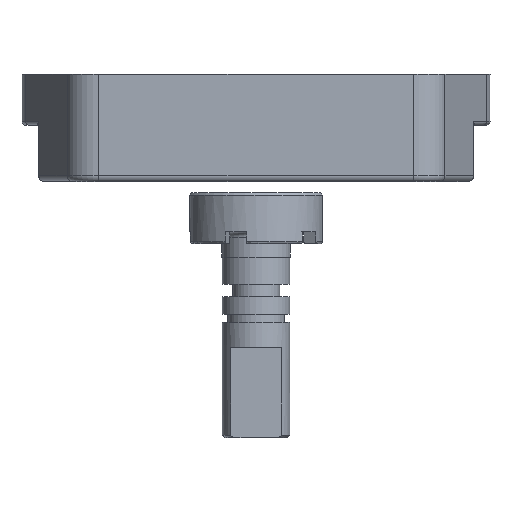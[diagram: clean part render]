
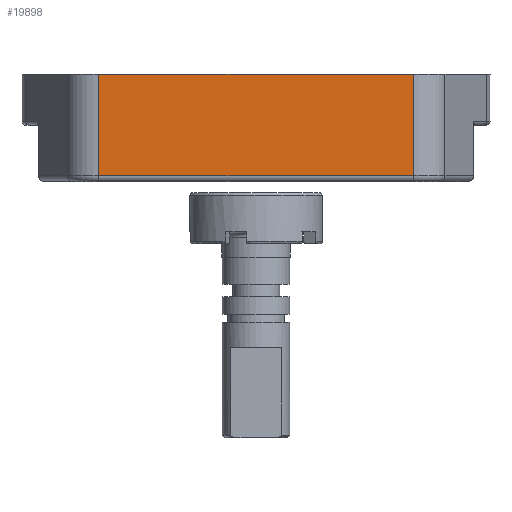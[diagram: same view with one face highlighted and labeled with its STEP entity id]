
A CAD part, front view. The second image highlights one B-rep face of the part: STEP entity #19898.
In plain terms, the highlighted planar face has unit normal (0, -1, 0).
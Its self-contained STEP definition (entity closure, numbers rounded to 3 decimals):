
#1111 = VECTOR ( 'NONE', #21350, 1000. ) ;
#1335 = EDGE_LOOP ( 'NONE', ( #13000, #3121, #3691, #19869 ) ) ;
#1554 = EDGE_CURVE ( 'NONE', #23985, #22761, #19725, .T. ) ;
#1808 = CARTESIAN_POINT ( 'NONE',  ( -13.955, -13., 0.5 ) ) ;
#2495 = DIRECTION ( 'NONE',  ( 0., 0., 1. ) ) ;
#3121 = ORIENTED_EDGE ( 'NONE', *, *, #16692, .T. ) ;
#3691 = ORIENTED_EDGE ( 'NONE', *, *, #1554, .T. ) ;
#6038 = CARTESIAN_POINT ( 'NONE',  ( 16., -13., 9.5 ) ) ;
#7567 = CARTESIAN_POINT ( 'NONE',  ( 13.955, -13., 9.5 ) ) ;
#8573 = EDGE_CURVE ( 'NONE', #19378, #25017, #9601, .T. ) ;
#8795 = DIRECTION ( 'NONE',  ( 0., 0., 1. ) ) ;
#9207 = EDGE_CURVE ( 'NONE', #19378, #22761, #9271, .T. ) ;
#9271 = LINE ( 'NONE', #6038, #9552 ) ;
#9552 = VECTOR ( 'NONE', #17393, 1000. ) ;
#9584 = CARTESIAN_POINT ( 'NONE',  ( -13.955, -13., 9.5 ) ) ;
#9601 = LINE ( 'NONE', #9584, #1111 ) ;
#12167 = VECTOR ( 'NONE', #8795, 1000. ) ;
#12260 = CARTESIAN_POINT ( 'NONE',  ( 16., -13., 9.5 ) ) ;
#13000 = ORIENTED_EDGE ( 'NONE', *, *, #8573, .T. ) ;
#13633 = CARTESIAN_POINT ( 'NONE',  ( 13.955, -13., 0.5 ) ) ;
#14487 = AXIS2_PLACEMENT_3D ( 'NONE', #12260, #24032, #2495 ) ;
#14881 = FACE_OUTER_BOUND ( 'NONE', #1335, .T. ) ;
#16692 = EDGE_CURVE ( 'NONE', #25017, #23985, #22834, .T. ) ;
#17076 = VECTOR ( 'NONE', #23622, 1000. ) ;
#17393 = DIRECTION ( 'NONE',  ( 1., 0., 0. ) ) ;
#18073 = PLANE ( 'NONE',  #14487 ) ;
#19378 = VERTEX_POINT ( 'NONE', #19989 ) ;
#19725 = LINE ( 'NONE', #22178, #12167 ) ;
#19869 = ORIENTED_EDGE ( 'NONE', *, *, #9207, .F. ) ;
#19898 = ADVANCED_FACE ( 'NONE', ( #14881 ), #18073, .F. ) ;
#19989 = CARTESIAN_POINT ( 'NONE',  ( -13.955, -13., 9.5 ) ) ;
#21350 = DIRECTION ( 'NONE',  ( 0., 0., -1. ) ) ;
#22178 = CARTESIAN_POINT ( 'NONE',  ( 13.955, -13., 9.5 ) ) ;
#22761 = VERTEX_POINT ( 'NONE', #7567 ) ;
#22834 = LINE ( 'NONE', #13633, #17076 ) ;
#23579 = CARTESIAN_POINT ( 'NONE',  ( 13.955, -13., 0.5 ) ) ;
#23622 = DIRECTION ( 'NONE',  ( 1., 0., 0. ) ) ;
#23985 = VERTEX_POINT ( 'NONE', #23579 ) ;
#24032 = DIRECTION ( 'NONE',  ( 0., 1., 0. ) ) ;
#25017 = VERTEX_POINT ( 'NONE', #1808 ) ;
